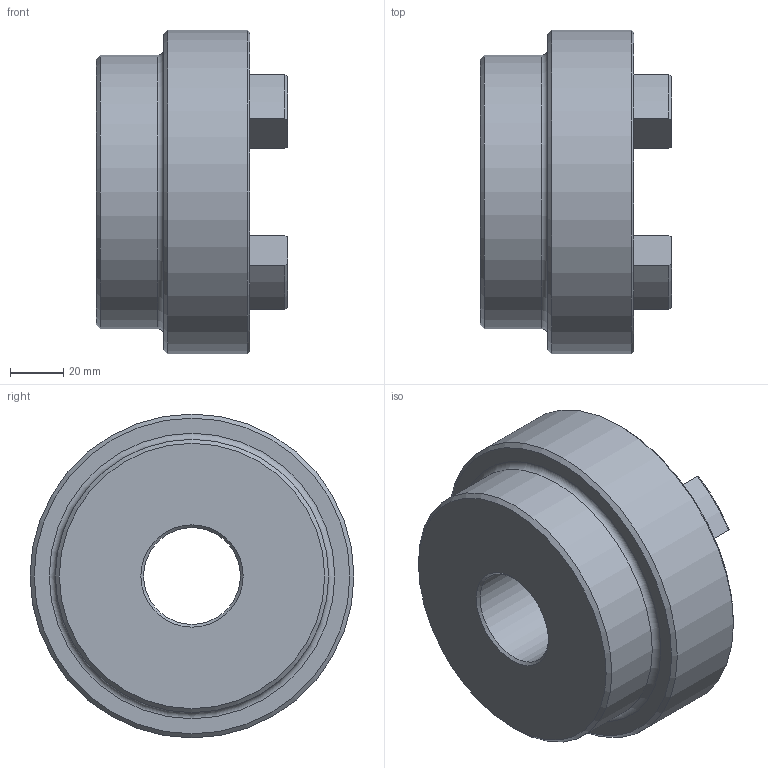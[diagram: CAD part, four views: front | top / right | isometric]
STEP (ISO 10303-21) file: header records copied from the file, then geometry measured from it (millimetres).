
FILE_DESCRIPTION (( 'STEP AP203' ), '1' );
FILE_NAME ('RC5.step', '2024-07-25T13:24:40', ( 'Adlan' ), ( '' ), 'SwSTEP 2.0', 'SolidWorks 2013', '' );
FILE_SCHEMA (( 'CONFIG_CONTROL_DESIGN' ));
Length unit declared in the file: inch
Products named in the file (1): RC5
Bounding box: 72.14 x 122.17 x 122.17 mm (x, y, z)
Volume: 436412.7 mm3; surface area: 58347.4 mm2
Topology: 1 solids, 1 shells, 76 faces, 189 edges, 117 vertices
Faces by surface type: cylinder 31, torus 17, plane 16, cone 12
Full cylindrical faces by diameter (mm): 36.525 x1, 103.124 x1, 122.174 x1
Entity records: 2349 total; most frequent: CARTESIAN_POINT 443, DIRECTION 416, ORIENTED_EDGE 358, EDGE_CURVE 179, AXIS2_PLACEMENT_3D 168, VERTEX_POINT 115, CIRCLE 91, EDGE_LOOP 88
